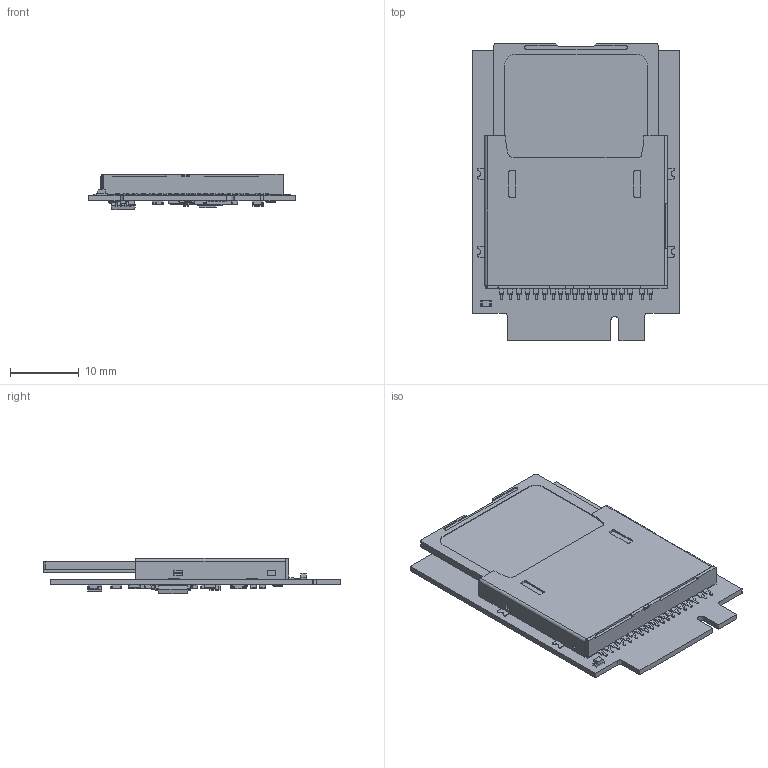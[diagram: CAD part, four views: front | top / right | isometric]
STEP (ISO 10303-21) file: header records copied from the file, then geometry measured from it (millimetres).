
FILE_DESCRIPTION(('Open CASCADE Model'),'2;1');
FILE_NAME('Open CASCADE Shape Model','2023-02-11T10:23:48',('Author'),( 'Open CASCADE'),'Open CASCADE STEP processor 7.5','Open CASCADE 7.5' ,'Unknown');
FILE_SCHEMA(('AUTOMOTIVE_DESIGN { 1 0 10303 214 1 1 1 1 }'));
Length unit declared in the file: millimetre
Products named in the file (160): PCB; Board; Open CASCADE STEP translator 7.5 5.1.1; U2; User Library-SSOP-8-2; X1; Crystal-3225; U1; User Library-QFN 48 6x6 pitch 0_4; R6; 0603_RES; Capsule; Encapsulation; TopCover; R5; R4; R3; R2; R1; LED1; LED AP1608; L4; vls252010hbx-1 20221019; L3; ferrite_bead_0603; L2; L1; CON1; SD 4.0 NO PUSH 20221104; C24; C0603_060; C23; C22; C21; C20; C17; C18; C19; C16; C15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
Assembly tree (247 placements, depth 4):
  PCB
    Board
      Open CASCADE STEP translator 7.5 5.1.1
    U2
      User Library-SSOP-8-2  x2
      User Library-SSOP-8-2
      User Library-SSOP-8-2  x2
      User Library-SSOP-8-2
      User Library-SSOP-8-2  x2
      User Library-SSOP-8-2
      User Library-SSOP-8-2  x2
      User Library-SSOP-8-2
      User Library-SSOP-8-2  x2
      User Library-SSOP-8-2
      User Library-SSOP-8-2  x2
      User Library-SSOP-8-2
      User Library-SSOP-8-2  x2
      User Library-SSOP-8-2
      User Library-SSOP-8-2  x2
      User Library-SSOP-8-2
      User Library-SSOP-8-2  x2
      User Library-SSOP-8-2
      User Library-SSOP-8-2  x2
      User Library-SSOP-8-2
    X1
      Crystal-3225
    U1
      User Library-QFN 48 6x6 pitch 0_4  x2
      User Library-QFN 48 6x6 pitch 0_4
    R6
      0603_RES
        Capsule
        Encapsulation  x2
        TopCover
    R5
      0603_RES
        Capsule
        Encapsulation  x2
        TopCover
    R4
      0603_RES
        Capsule
        Encapsulation  x2
        TopCover
    R3
      0603_RES
        Capsule
        Encapsulation  x2
        TopCover
    R2
      0603_RES
        Capsule
        Encapsulation  x2
        TopCover
    R1
      0603_RES
        Capsule
        Encapsulation  x2
        TopCover
    LED1
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Bounding box: 30.05 x 43.11 x 5.1 mm (x, y, z)
Volume: 2509.2 mm3; surface area: 7724.8 mm2
Topology: 235 solids, 235 shells, 5497 faces, 14075 edges, 8987 vertices
Faces by surface type: plane 3665, cylinder 989, bspline 620, sphere 219, cone 4
Full cylindrical faces by diameter (mm): 0.66 x6, 1.6 x2
Entity records: 167321 total; most frequent: CARTESIAN_POINT 33681, ORIENTED_EDGE 16626, DIRECTION 14710, EDGE_CURVE 8313, LINE 7004, VECTOR 7004, PRESENTATION_STYLE_ASSIGNMENT 6045, SURFACE_STYLE_USAGE 6045
